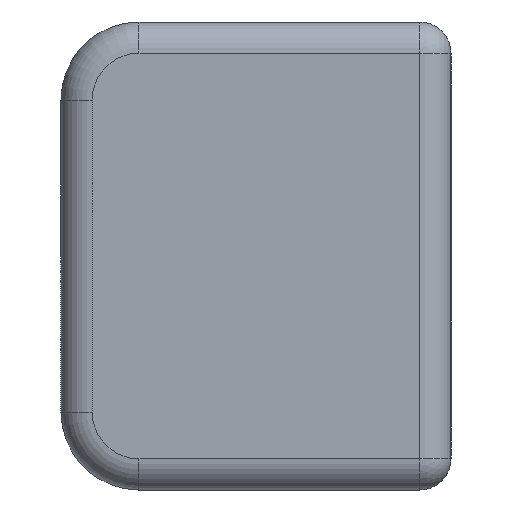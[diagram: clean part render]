
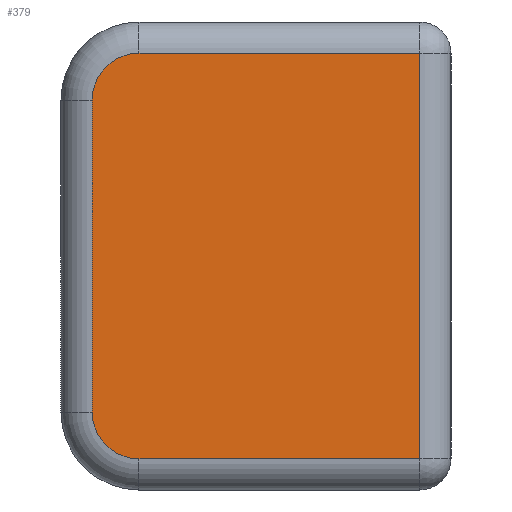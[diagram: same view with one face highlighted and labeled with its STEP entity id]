
A CAD part, left-side view. The second image highlights one B-rep face of the part: STEP entity #379.
In plain terms, the highlighted planar face has unit normal (-1, 0, 0).
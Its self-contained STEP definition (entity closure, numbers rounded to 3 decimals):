
#78 = CARTESIAN_POINT ( 'NONE',  ( 0., 25., -13. ) ) ;
#94 = EDGE_LOOP ( 'NONE', ( #100, #1267, #859, #840, #631, #1139 ) ) ;
#100 = ORIENTED_EDGE ( 'NONE', *, *, #774, .T. ) ;
#103 = LINE ( 'NONE', #1212, #658 ) ;
#128 = DIRECTION ( 'NONE',  ( 0., 1., 0. ) ) ;
#180 = DIRECTION ( 'NONE',  ( 0., 0., -1. ) ) ;
#189 = CARTESIAN_POINT ( 'NONE',  ( 0., 20., 13. ) ) ;
#192 = AXIS2_PLACEMENT_3D ( 'NONE', #783, #675, #128 ) ;
#286 = DIRECTION ( 'NONE',  ( 0., 1., 0. ) ) ;
#293 = AXIS2_PLACEMENT_3D ( 'NONE', #309, #761, #623 ) ;
#309 = CARTESIAN_POINT ( 'NONE',  ( 0., 20., 10. ) ) ;
#349 = PLANE ( 'NONE',  #778 ) ;
#379 = ADVANCED_FACE ( 'NONE', ( #670 ), #349, .F. ) ;
#404 = LINE ( 'NONE', #490, #855 ) ;
#490 = CARTESIAN_POINT ( 'NONE',  ( 0., 23., 15. ) ) ;
#564 = CIRCLE ( 'NONE', #192, 3. ) ;
#623 = DIRECTION ( 'NONE',  ( 0., 1., 0. ) ) ;
#631 = ORIENTED_EDGE ( 'NONE', *, *, #1378, .T. ) ;
#658 = VECTOR ( 'NONE', #991, 1000. ) ;
#670 = FACE_OUTER_BOUND ( 'NONE', #94, .T. ) ;
#675 = DIRECTION ( 'NONE',  ( -1., 0., 0. ) ) ;
#730 = CARTESIAN_POINT ( 'NONE',  ( 0., 2., -13. ) ) ;
#731 = EDGE_CURVE ( 'NONE', #878, #884, #103, .T. ) ;
#761 = DIRECTION ( 'NONE',  ( -1., 0., 0. ) ) ;
#774 = EDGE_CURVE ( 'NONE', #1113, #1380, #564, .T. ) ;
#778 = AXIS2_PLACEMENT_3D ( 'NONE', #797, #1226, #1241 ) ;
#783 = CARTESIAN_POINT ( 'NONE',  ( 0., 20., -10. ) ) ;
#797 = CARTESIAN_POINT ( 'NONE',  ( 0., 25., 15. ) ) ;
#840 = ORIENTED_EDGE ( 'NONE', *, *, #875, .T. ) ;
#843 = LINE ( 'NONE', #1073, #1332 ) ;
#855 = VECTOR ( 'NONE', #180, 1000. ) ;
#859 = ORIENTED_EDGE ( 'NONE', *, *, #731, .T. ) ;
#875 = EDGE_CURVE ( 'NONE', #884, #938, #843, .T. ) ;
#878 = VERTEX_POINT ( 'NONE', #730 ) ;
#884 = VERTEX_POINT ( 'NONE', #1178 ) ;
#888 = CIRCLE ( 'NONE', #293, 3. ) ;
#893 = DIRECTION ( 'NONE',  ( 0., -1., 0. ) ) ;
#938 = VERTEX_POINT ( 'NONE', #189 ) ;
#946 = EDGE_CURVE ( 'NONE', #1380, #878, #989, .T. ) ;
#989 = LINE ( 'NONE', #78, #1265 ) ;
#991 = DIRECTION ( 'NONE',  ( 0., 0., 1. ) ) ;
#1019 = VERTEX_POINT ( 'NONE', #1299 ) ;
#1073 = CARTESIAN_POINT ( 'NONE',  ( 0., 20., 13. ) ) ;
#1113 = VERTEX_POINT ( 'NONE', #1352 ) ;
#1139 = ORIENTED_EDGE ( 'NONE', *, *, #1171, .T. ) ;
#1171 = EDGE_CURVE ( 'NONE', #1019, #1113, #404, .T. ) ;
#1178 = CARTESIAN_POINT ( 'NONE',  ( 0., 2., 13. ) ) ;
#1212 = CARTESIAN_POINT ( 'NONE',  ( 0., 2., 15. ) ) ;
#1226 = DIRECTION ( 'NONE',  ( 1., 0., 0. ) ) ;
#1241 = DIRECTION ( 'NONE',  ( 0., 1., 0. ) ) ;
#1265 = VECTOR ( 'NONE', #893, 1000. ) ;
#1267 = ORIENTED_EDGE ( 'NONE', *, *, #946, .T. ) ;
#1296 = CARTESIAN_POINT ( 'NONE',  ( 0., 20., -13. ) ) ;
#1299 = CARTESIAN_POINT ( 'NONE',  ( 0., 23., 10. ) ) ;
#1332 = VECTOR ( 'NONE', #286, 1000. ) ;
#1352 = CARTESIAN_POINT ( 'NONE',  ( 0., 23., -10. ) ) ;
#1378 = EDGE_CURVE ( 'NONE', #938, #1019, #888, .T. ) ;
#1380 = VERTEX_POINT ( 'NONE', #1296 ) ;
